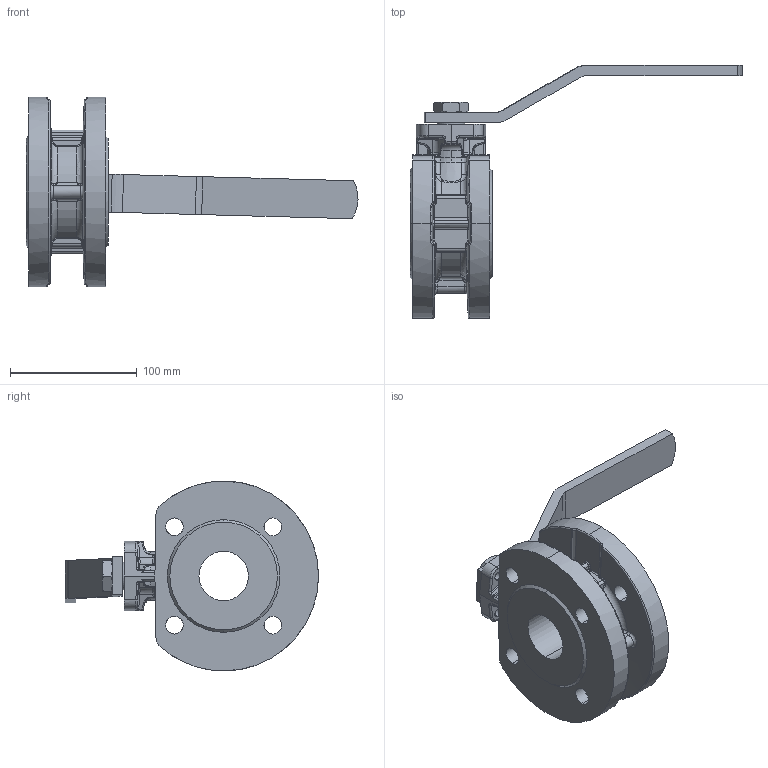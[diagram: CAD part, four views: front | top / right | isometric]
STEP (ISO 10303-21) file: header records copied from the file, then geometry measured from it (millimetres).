
FILE_DESCRIPTION (( 'STEP AP203' ), '1' );
FILE_NAME ('B1_040.STEP', '2012-06-08T12:19:34', ( ' ' ), ( '' ), 'SwSTEP 2.0', 'SolidWorks 2009', '' );
FILE_SCHEMA (( 'CONFIG_CONTROL_DESIGN' ));
Length unit declared in the file: millimetre
Products named in the file (1): B1_040
Bounding box: 262.42 x 200.03 x 150 mm (x, y, z)
Volume: 767966 mm3; surface area: 112540.3 mm2
Topology: 1 solids, 3 shells, 554 faces, 1332 edges, 779 vertices
Faces by surface type: bspline 226, cylinder 153, plane 75, torus 44, cone 44, sphere 12
Entity records: 23713 total; most frequent: CARTESIAN_POINT 12651, ORIENTED_EDGE 2640, DIRECTION 1889, EDGE_CURVE 1320, AXIS2_PLACEMENT_3D 801, VERTEX_POINT 779, EDGE_LOOP 587, FACE_OUTER_BOUND 554
